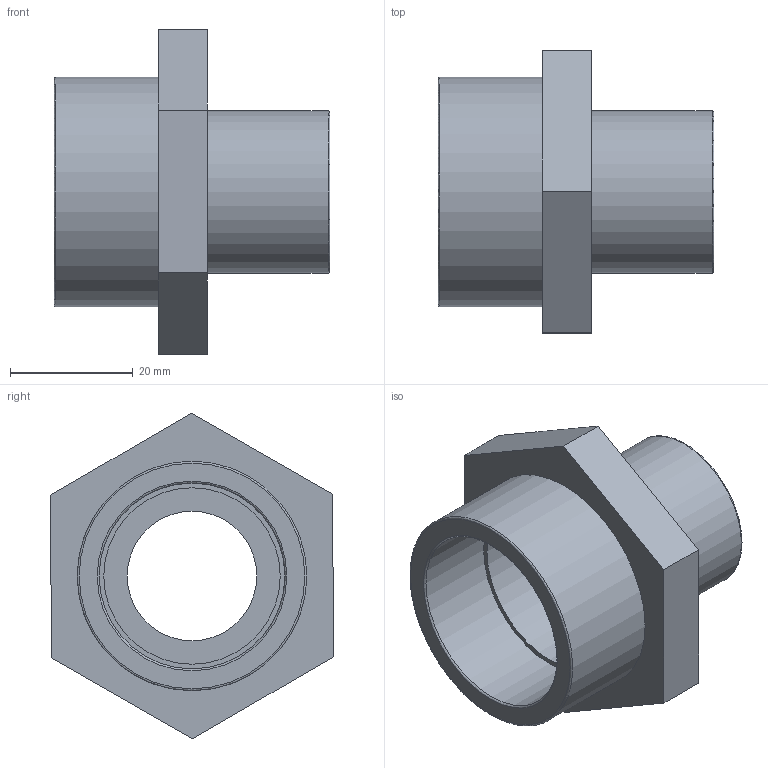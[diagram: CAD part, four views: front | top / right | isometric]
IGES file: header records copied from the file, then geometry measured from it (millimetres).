
Global section: file name: 052201007010.ipt; native system: Autodesk Inventor 2015; preprocessor: unknown; author: KIM; date: 20171207.165417; units: millimetre
Bounding box: 45 x 46.09 x 53.12 mm (x, y, z)
Volume: 21272.6 mm3; surface area: 11407.2 mm2
Topology: 1 solids, 1 shells, 21 faces, 55 edges, 40 vertices
Faces by surface type: plane 12, revolution 7, cylinder 2
Full cylindrical faces by diameter (mm): 26.441 x1, 37.409 x1
